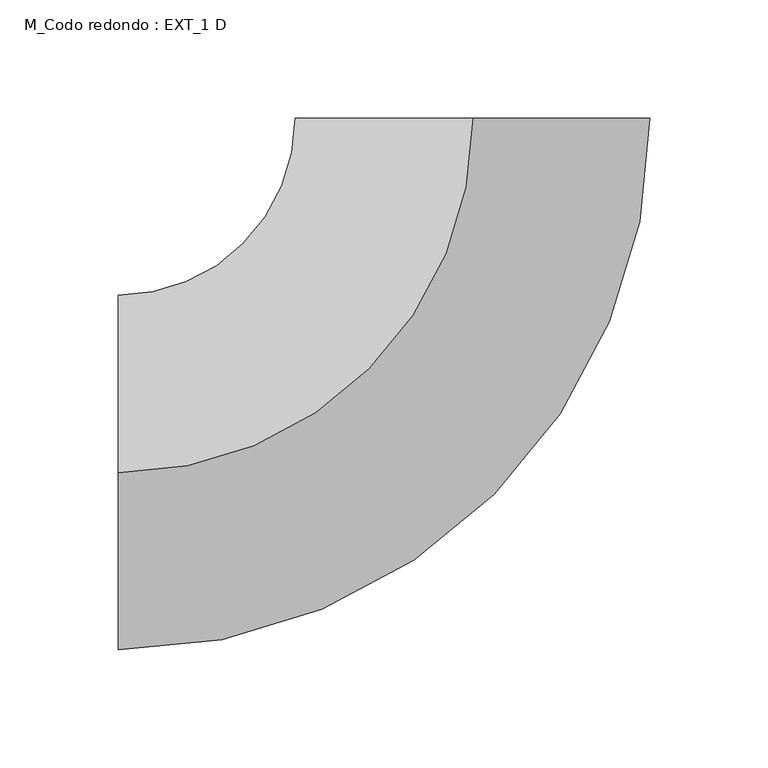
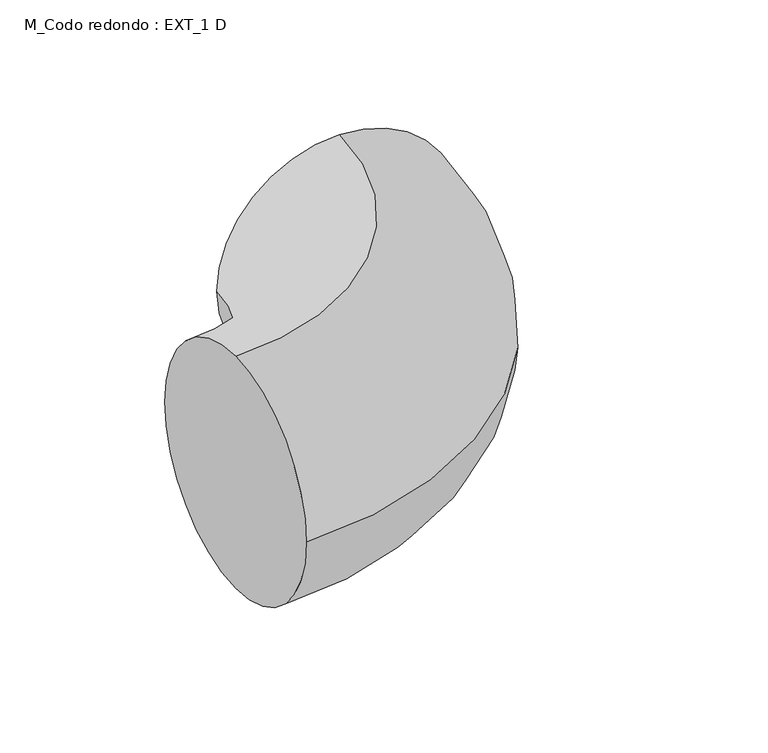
"""IFC4 building model written with IfcOpenShell, lengths in millimetres: duct fitting geometry, M_Codo redondo : EXT_1 D."""

from ifc_helpers import new_model, si_unit, point, frame, origin, place, context, project, spatial, circle_curve, ellipse_curve, trimmed, source, transform, mapped, element, save
from ifc_brep_helpers import plane_surface, revolved_surface, advanced_brep


def m_codo_redondo_ext_1_d_fe658834(model_context):
    return source(origin(), model_context, "Body", "AdvancedBrep", [
        advanced_brep(
        [(-150.0, 0.0, 75.0), (-150.0, 75.0, 0.0), (-150.0, 0.0, -75.0), (-150.0, -75.0, 0.0), (0.0, 150.0, 75.0), (75.0, 150.0, 0.0), (0.0, 150.0, -75.0), (-75.0, 150.0, 0.0)],
        [
            (0, 1, circle_curve(frame((-150.0, 0.0, 0.0), z_axis=(-1.0, 0.0, 0.0), x_axis=(0.0, 1.0, 0.0)), 75.0)),
            (1, 2, circle_curve(frame((-150.0, 0.0, 0.0), z_axis=(-1.0, 0.0, 0.0), x_axis=(0.0, 1.0, 0.0)), 75.0)),
            (2, 3, circle_curve(frame((-150.0, 0.0, 0.0), z_axis=(-1.0, 0.0, 0.0), x_axis=(0.0, 1.0, 0.0)), 75.0)),
            (3, 0, circle_curve(frame((-150.0, 0.0, 0.0), z_axis=(-1.0, 0.0, 0.0), x_axis=(0.0, 1.0, 0.0)), 75.0)),
            (4, 5, circle_curve(frame((0.0, 150.0, 0.0), z_axis=(0.0, 1.0, 0.0), x_axis=(-1.0, 0.0, 0.0)), 75.0)),
            (5, 6, circle_curve(frame((0.0, 150.0, 0.0), z_axis=(0.0, 1.0, 0.0), x_axis=(-1.0, 0.0, 0.0)), 75.0)),
            (6, 7, circle_curve(frame((0.0, 150.0, 0.0), z_axis=(0.0, 1.0, 0.0), x_axis=(-1.0, 0.0, 0.0)), 75.0)),
            (7, 4, circle_curve(frame((0.0, 150.0, 0.0), z_axis=(0.0, 1.0, 0.0), x_axis=(-1.0, 0.0, 0.0)), 75.0)),
            (7, 1, circle_curve(frame((-150.0, 150.0, 0.0), z_axis=(0.0, 0.0, -1.0), x_axis=(0.0, -1.0, 0.0)), 75.0)),
            (0, 4, circle_curve(frame((-150.0, 150.0, 75.0), z_axis=(0.0, 0.0, 1.0), x_axis=(0.0, -1.0, 0.0)), 150.0)),
            (6, 2, circle_curve(frame((-150.0, 150.0, -75.0), z_axis=(0.0, 0.0, -1.0), x_axis=(0.0, -1.0, 0.0)), 150.0)),
            (5, 3, circle_curve(frame((-150.0, 150.0, 0.0), z_axis=(0.0, 0.0, -1.0), x_axis=(0.0, -1.0, 0.0)), 225.0)),
        ],
        [
            plane_surface(frame((-150.0, 0.0, 0.0), z_axis=(-1.0, 0.0, 0.0), x_axis=(0.0, 0.0, 1.0))),
            plane_surface(frame((0.0, 150.0, 0.0), z_axis=(0.0, 1.0, 0.0), x_axis=(0.0, 0.0, 1.0))),
            revolved_surface(trimmed(ellipse_curve(frame((-150.0, 0.0, 0.0), z_axis=(-1.0, 0.0, 0.0), x_axis=(0.0, 1.0, 0.0)), 75.0, 75.0), [point((-150.0, 0.0, 75.0))], [point((-150.0, 75.0, 0.0))], True, "CARTESIAN"), (-150.0, 150.0, 0.0), (0.0, 0.0, 1.0)),
            revolved_surface(trimmed(ellipse_curve(frame((-150.0, 0.0, 0.0), z_axis=(-1.0, 0.0, 0.0), x_axis=(0.0, 1.0, 0.0)), 75.0, 75.0), [point((-150.0, 75.0, 0.0))], [point((-150.0, 0.0, -75.0))], True, "CARTESIAN"), (-150.0, 150.0, 0.0), (0.0, 0.0, 1.0)),
            revolved_surface(trimmed(ellipse_curve(frame((-150.0, 0.0, 0.0), z_axis=(-1.0, 0.0, 0.0), x_axis=(0.0, 1.0, 0.0)), 75.0, 75.0), [point((-150.0, 0.0, -75.0))], [point((-150.0, -75.0, 0.0))], True, "CARTESIAN"), (-150.0, 150.0, 0.0), (0.0, 0.0, 1.0)),
            revolved_surface(trimmed(ellipse_curve(frame((-150.0, 0.0, 0.0), z_axis=(-1.0, 0.0, 0.0), x_axis=(0.0, 1.0, 0.0)), 75.0, 75.0), [point((-150.0, -75.0, 0.0))], [point((-150.0, 0.0, 75.0))], True, "CARTESIAN"), (-150.0, 150.0, 0.0), (0.0, 0.0, 1.0)),
        ],
        [
            (0, [[1, 2, 3, 4]]),
            (1, [[5, 6, 7, 8]]),
            (2, [[9, -1, 10, -8]]),
            (3, [[11, -2, -9, -7]]),
            (4, [[12, -3, -11, -6]]),
            (5, [[-10, -4, -12, -5]]),
        ],
    ),
    ])


if __name__ == "__main__":
    model = new_model("IFC4")
    model_context = context("Model", 3, world=origin())
    ifc_project = project(units=[si_unit("LENGTHUNIT", "METRE", prefix="MILLI")], contexts=[model_context])
    site = spatial("IfcSite", under=ifc_project)
    building = spatial("IfcBuilding", under=site)
    placement = place(None, origin())
    m_codo_redondo_ext_1_d_shape = m_codo_redondo_ext_1_d_fe658834(model_context)
    element("IfcDuctFitting", 1, ObjectType="M_Codo redondo : EXT_1 D", at=placement, inside=building, context=model_context, shape_type="MappedRepresentation", body=[
        mapped(m_codo_redondo_ext_1_d_shape, transform((0.0, 0.0, 0.0), x_axis=(1.0, 0.0, 0.0), y_axis=(0.0, 1.0, 0.0), z_axis=(0.0, 0.0, 1.0))),
    ])
    save(model, "model.ifc")
